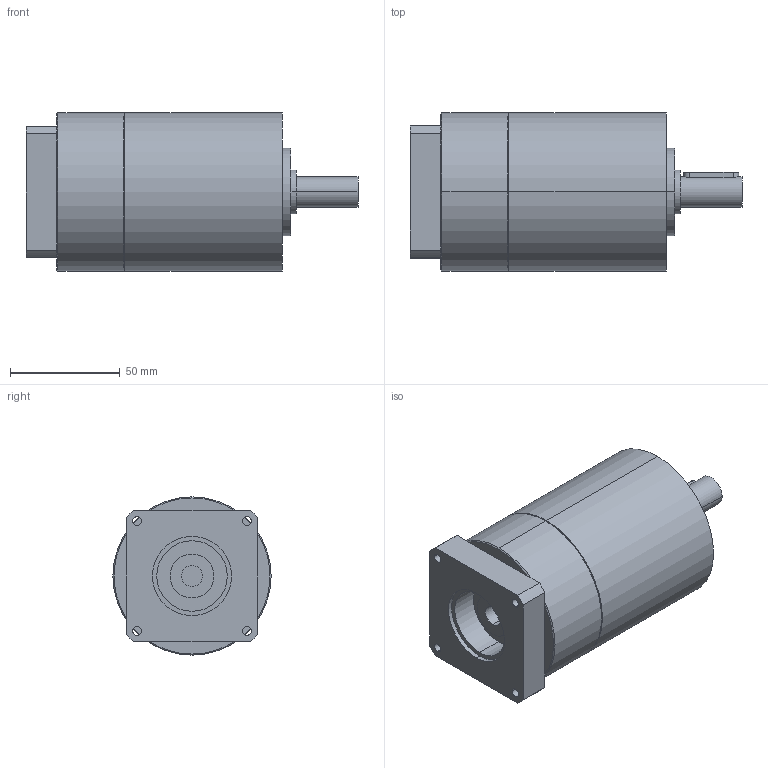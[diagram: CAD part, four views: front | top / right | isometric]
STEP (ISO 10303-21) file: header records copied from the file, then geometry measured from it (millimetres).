
FILE_DESCRIPTION(('CoCreate Modeling STEP Export'),'2;1');
FILE_NAME('GPT75_ig-9-12-16-20-25-28-35-40-50-70-100_14_B14T_9.52_P35.stp','2014-08-27T13:26:55',(''),(''),'CoCreate Modeling STEP processor for AP214 (Solid Model)','CoCreate Modeling 16.00C 25-Feb-2009 (C) Parametric Technology GmbH','');
FILE_SCHEMA(('AUTOMOTIVE_DESIGN { 1 0 10303 214 1 1 1 1 }'));
Length unit declared in the file: millimetre
Products named in the file (2): GPT75_ig-9-12-16-20-25-28-35-40-50-70-100_14_B14T_9.52_P35
Assembly tree (1 placements, depth 2):
  GPT75_ig-9-12-16-20-25-28-35-40-50-70-100_14_B14T_9.52_P35
    GPT75_ig-9-12-16-20-25-28-35-40-50-70-100_14_B14T_9.52_P35
Bounding box: 151 x 72 x 72 mm (x, y, z)
Volume: 463125.4 mm3; surface area: 41134.9 mm2
Topology: 1 solids, 1 shells, 80 faces, 198 edges, 129 vertices
Faces by surface type: cylinder 42, plane 34, cone 4
Entity records: 2353 total; most frequent: CARTESIAN_POINT 689, ORIENTED_EDGE 396, DIRECTION 276, EDGE_CURVE 198, VERTEX_POINT 129, AXIS2_PLACEMENT_3D 104, EDGE_LOOP 97, FACE_OUTER_BOUND 80
